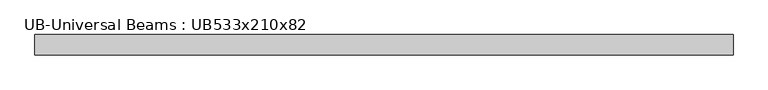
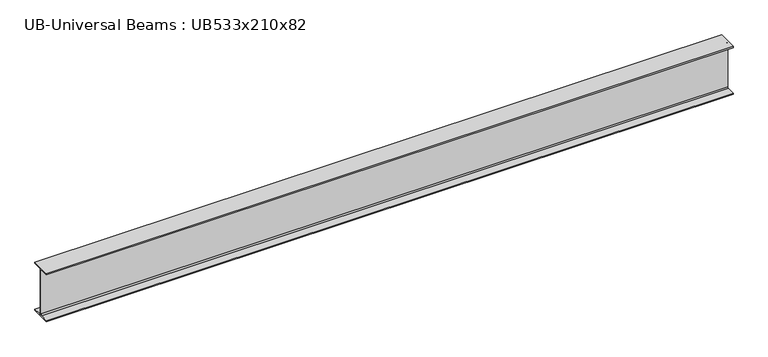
"""IFC4 building model written with IfcOpenShell, lengths in millimetres: beam geometry, UB-Universal Beams : UB533x210x82."""

from ifc_helpers import new_model, si_unit, point, frame, frame_2d, origin, place, context, project, spatial, polyline, circle_curve, trimmed, segment, composite_curve, outline, extrude, source, transform, mapped, element, save


def ub_universal_beams_ub533x210x82_ef77b3a2(model_context):
    return source(origin(), model_context, "Body", "SweptSolid", [
        extrude(outline(composite_curve([segment(polyline([(104.4, -250.95), (104.4, -264.15), (-104.4, -264.15), (-104.4, -250.95), (-17.5, -250.95)]), True, "CONTINUOUS"), segment(trimmed(circle_curve(frame_2d((-17.5, -238.25)), 12.7), [point((-17.5, -250.95))], [point((-4.8, -238.25))], True, "CARTESIAN"), True, "CONTINUOUS"), segment(polyline([(-4.8, -238.25), (-4.8, 238.25)]), True, "CONTINUOUS"), segment(trimmed(circle_curve(frame_2d((-17.5, 238.25)), 12.7), [point((-4.8, 238.25))], [point((-17.5, 250.95))], True, "CARTESIAN"), True, "CONTINUOUS"), segment(polyline([(-17.5, 250.95), (-104.4, 250.95), (-104.4, 264.15), (104.4, 264.15), (104.4, 250.95), (17.5, 250.95)]), True, "CONTINUOUS"), segment(trimmed(circle_curve(frame_2d((17.5, 238.25)), 12.7), [point((17.5, 250.95))], [point((4.8, 238.25))], True, "CARTESIAN"), True, "CONTINUOUS"), segment(polyline([(4.8, 238.25), (4.8, -238.25)]), True, "CONTINUOUS"), segment(trimmed(circle_curve(frame_2d((17.5, -238.25)), 12.7), [point((4.8, -238.25))], [point((17.5, -250.95))], True, "CARTESIAN"), True, "CONTINUOUS"), segment(polyline([(17.5, -250.95), (104.4, -250.95)]), True, "CONTINUOUS")], self_intersect=False)), frame((-3574.8, 0.0, 0.0), z_axis=(1.0, 0.0, 0.0), x_axis=(0.0, 1.0, 0.0)), (0.0, 0.0, 1.0), 7142.6),
    ])


if __name__ == "__main__":
    model = new_model("IFC4")
    model_context = context("Model", 3, world=origin())
    ifc_project = project(units=[si_unit("LENGTHUNIT", "METRE", prefix="MILLI")], contexts=[model_context])
    site = spatial("IfcSite", under=ifc_project)
    building = spatial("IfcBuilding", under=site)
    placement = place(None, origin())
    ub_universal_beams_ub533x210x82_shape = ub_universal_beams_ub533x210x82_ef77b3a2(model_context)
    element("IfcBeam", 1, ObjectType="UB-Universal Beams : UB533x210x82", at=placement, inside=building, context=model_context, shape_type="MappedRepresentation", body=[
        mapped(ub_universal_beams_ub533x210x82_shape, transform((0.0, 0.0, 0.0), x_axis=(1.0, 0.0, 0.0), y_axis=(0.0, 1.0, 0.0), z_axis=(0.0, 0.0, 1.0))),
    ])
    save(model, "model.ifc")
